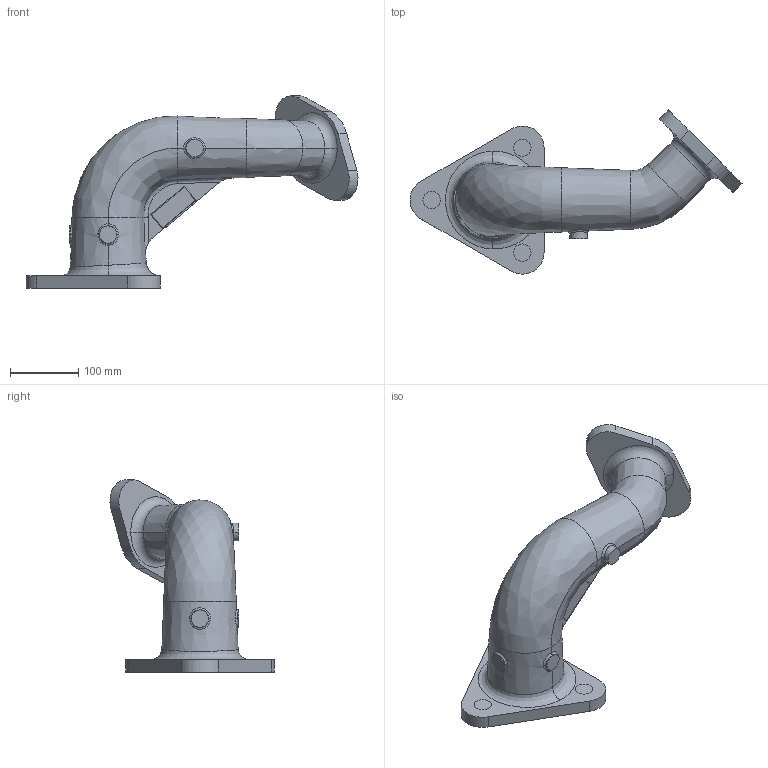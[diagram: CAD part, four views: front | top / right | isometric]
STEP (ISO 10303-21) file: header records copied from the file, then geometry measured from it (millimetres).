
FILE_DESCRIPTION(/* description */ ('AP242 STEP file','CAx-IF Rec.Pracs.---Geometric and Assembly Validation Properties---4.4--2015-08-17','CAx-IF Rec.Pracs.---Representation and Presentation of Product Manufacturing Information (PMI)---4.0.4---2016-09-01','CAx-IF Rec.Pracs.---User Defined Attributes---1.5---2016-08-15','CAx-IF Rec.Pracs.---3D Tessellated Geometry---1.0---2015-12-17','CAx-IF Rec.Pracs.---Model Styling and Organization---1.6---2018-08-17'),/* implementation_level */ '2;1');
FILE_NAME(/* name */ 'CASTING SPECIMEN ADPAG 1.1.stp',/* time_stamp */ '2020-04-01T14:38:32-04:00',/* author */ (''),/* organization */ (''),/* preprocessor_version */ 'ST-DEVELOPER v17.1',/* originating_system */ 'Elysium Co. Ltd. STEP Translator v8.2.0.5',/* authorisation */ '');
FILE_SCHEMA (('AP242_MANAGED_MODEL_BASED_3D_ENGINEERING_MIM_LF { 1 0 10303 442 1 1 4 }'));
Length unit declared in the file: millimetre
Products named in the file (1): PART3
Bounding box: 487.59 x 240.92 x 282.36 mm (x, y, z)
Volume: 1831568.2 mm3; surface area: 370477.1 mm2
Topology: 1 solids, 5 shells, 90 faces, 250 edges, 210 vertices
Faces by surface type: bspline 33, plane 22, cone 17, cylinder 16, torus 2
Entity records: 6182 total; most frequent: CARTESIAN_POINT 3720, STYLED_ITEM 441, ORIENTED_EDGE 410, EDGE_CURVE 210, AXIS2_PLACEMENT_3D 144, VERTEX_POINT 130, B_SPLINE_CURVE_WITH_KNOTS 127, EDGE_LOOP 96
